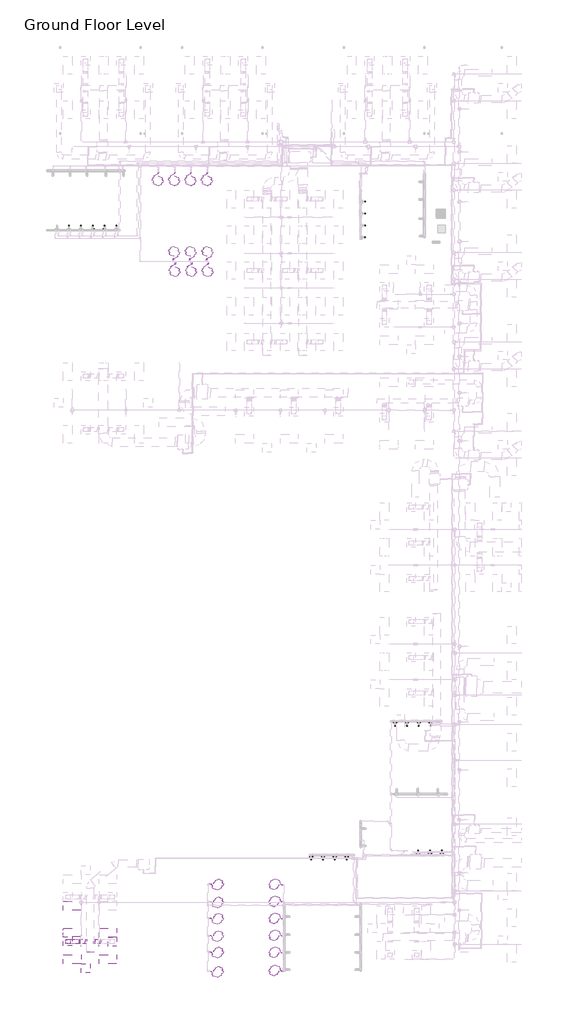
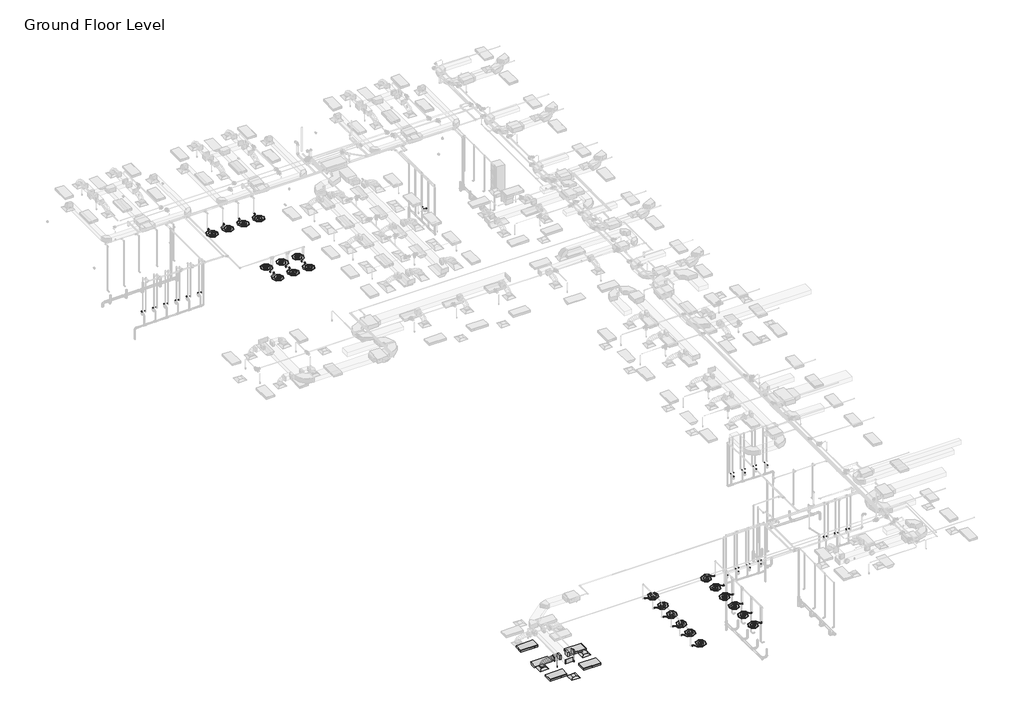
# One storey, part 1 of 74: 43 flow terminals, 6 duct fittings, 5 light fixtures, 3 air terminals, 3 duct segments, 2 fire suppression terminals, 2 pipe segments.
"""IFC4 building model written with IfcOpenShell, lengths in millimetres."""

from ifc_helpers import new_model, si_unit, point, frame, frame_2d, origin, place, context, project, spatial, polyline, circle_curve, ellipse_curve, trimmed, segment, composite_curve, outline, extrude, transform, mapped, element, save
from ifc_brep_helpers import plane_surface, cylinder_surface, advanced_brep
from components import m_return_diffuser_600_x_600_face_300_x_300_connection_ff221211, m_rectangular_endcap_standard_72d4d00d, m_rectangular_takeoff_standard_cb0ccb98, m_rectangular_takeoff_standard_2be5eba1, m_rectangular_to_round_transition_angle_45_degree_641efff0, m_sprinkler_dry_pendent_hosted_15_mm_dry_pendent_9bda8e11, lavatory_unit_m_type_1_c53317d3, shower_m_shower_m_096738a5, m_emergency_recessed_lighting_fixture_600x1200_277_5b10b25d, m_troffer_light_parabolic_rectangular1_0600x1200mm_4_lamp_86473d4a

model = new_model("IFC4")

# Units and contexts
model_context = context("Model", 3, world=origin())
ifc_project = project(units=[si_unit("LENGTHUNIT", "METRE", prefix="MILLI")], contexts=[model_context])

# Site, building, storey
site = spatial("IfcSite", under=ifc_project)
building = spatial("IfcBuilding", under=site)
storey = spatial("IfcBuildingStorey", under=building, Name="Ground Floor Level", Elevation=900.0)

# Air terminals
placement = place(None, origin())
m_return_diffuser_600_x_600_face_300_x_300_connection_shape = m_return_diffuser_600_x_600_face_300_x_300_connection_ff221211(model_context)
element("IfcAirTerminal", 1, ObjectType="M_Return Diffuser : 600 x 600 Face 300 x 300 Connection", at=placement, inside=storey, context=model_context, shape_type="MappedRepresentation", body=[
    mapped(m_return_diffuser_600_x_600_face_300_x_300_connection_shape, transform((-19137.2327605, -40464.7846466, 3650.0), x_axis=(1.0, 0.0, 0.0), y_axis=(0.0, 1.0, 0.0), z_axis=(0.0, 0.0, 1.0))),
])
element("IfcAirTerminal", 2, ObjectType="M_Supply Diffuser : 600 x 600 Face 300 x 300 Connection", at=placement, inside=storey, context=model_context, shape_type="MappedRepresentation", body=[
    mapped(m_return_diffuser_600_x_600_face_300_x_300_connection_shape, transform((-20337.2327605, -38664.7846466, 3650.0), x_axis=(1.0, 0.0, 0.0), y_axis=(0.0, 1.0, 0.0), z_axis=(0.0, 0.0, 1.0))),
])
element("IfcAirTerminal", 3, ObjectType="M_Supply Diffuser : 600 x 600 Face 300 x 300 Connection", at=placement, inside=storey, context=model_context, shape_type="MappedRepresentation", body=[
    mapped(m_return_diffuser_600_x_600_face_300_x_300_connection_shape, transform((-17337.2327605, -38674.7846466, 3650.0), x_axis=(1.0, 0.0, 0.0), y_axis=(0.0, 1.0, 0.0), z_axis=(0.0, 0.0, 1.0))),
])

# Duct fittings
m_rectangular_endcap_standard_shape = m_rectangular_endcap_standard_72d4d00d(model_context)
element("IfcDuctFitting", 4, ObjectType="M_Rectangular Endcap : Standard", at=placement, inside=storey, context=model_context, shape_type="MappedRepresentation", body=[
    mapped(m_rectangular_endcap_standard_shape, transform((-18834.0450532, -39368.1580197, 4100.0), x_axis=(0.0, -1.0, 0.0), y_axis=(1.0, 0.0, 0.0), z_axis=(0.0, 0.0, 1.0))),
])
m_rectangular_takeoff_standard_shape = m_rectangular_takeoff_standard_cb0ccb98(model_context)
element("IfcDuctFitting", 5, ObjectType="M_Rectangular Takeoff : Standard", at=placement, inside=storey, context=model_context, shape_type="MappedRepresentation", body=[
    mapped(m_rectangular_takeoff_standard_shape, transform((-18584.0450532, -38664.7846466, 4100.0), x_axis=(1.0, 0.0, 0.0), y_axis=(0.0, -1.0, 0.0), z_axis=(0.0, 0.0, -1.0))),
])
m_rectangular_takeoff_standard_2_shape = m_rectangular_takeoff_standard_2be5eba1(model_context)
element("IfcDuctFitting", 6, ObjectType="M_Rectangular Takeoff : Standard", at=placement, inside=storey, context=model_context, shape_type="MappedRepresentation", body=[
    mapped(m_rectangular_takeoff_standard_2_shape, transform((-19084.0450532, -38664.7846466, 4100.0), x_axis=(-1.0, 0.0, 0.0), y_axis=(0.0, 1.0, 0.0), z_axis=(0.0, 0.0, -1.0))),
])
m_rectangular_to_round_transition_angle_45_degree_shape = m_rectangular_to_round_transition_angle_45_degree_641efff0(model_context)
element("IfcDuctFitting", 7, ObjectType="M_Rectangular to Round Transition - Angle : 45 Degree", at=placement, inside=storey, context=model_context, shape_type="MappedRepresentation", body=[
    mapped(m_rectangular_to_round_transition_angle_45_degree_shape, transform((-18164.5686918, -38664.7846466, 4100.0), x_axis=(1.0, 0.0, 0.0), y_axis=(0.0, 1.0, 0.0), z_axis=(0.0, 0.0, 1.0))),
])
element("IfcDuctFitting", 8, ObjectType="M_Rectangular to Round Transition - Angle : 45 Degree", at=placement, inside=storey, context=model_context, shape_type="MappedRepresentation", body=[
    mapped(m_rectangular_to_round_transition_angle_45_degree_shape, transform((-20337.2327605, -38664.7846466, 3751.6), x_axis=(0.0, 0.0, 1.0), y_axis=(-1.0, 0.0, 0.0), z_axis=(0.0, -1.0, 0.0))),
])
element("IfcDuctFitting", 9, ObjectType="M_Rectangular to Round Transition - Angle : 45 Degree", at=placement, inside=storey, context=model_context, shape_type="MappedRepresentation", body=[
    mapped(m_rectangular_to_round_transition_angle_45_degree_shape, transform((-19509.8968292, -38664.7846466, 4100.0), x_axis=(-1.0, 0.0, 0.0), y_axis=(0.0, -1.0, 0.0), z_axis=(0.0, 0.0, 1.0))),
])

# Duct segments
element("IfcDuctSegment", 10, ObjectType="Flex - Round", at=placement, inside=storey, context=model_context, shape_type="AdvancedBrep", body=[
    advanced_brep(
    [(-20187.2327605, -38664.7846466, 3826.6), (-20337.2327605, -38814.7846466, 3826.6), (-20487.2327605, -38664.7846466, 3826.6), (-20337.2327605, -38514.7846466, 3826.6), (-20187.2327605, -38664.7846466, 3832.2944892), (-20337.2327605, -38814.7846466, 3857.9377114), (-20487.2327605, -38664.7846466, 3883.5809337), (-20337.2327605, -38514.7846466, 3857.9377114), (-20186.478849, -38664.7846466, 3834.435049), (-20320.216828, -38814.7846466, 3906.2505728), (-20453.9548069, -38664.7846466, 3978.0660967), (-20320.216828, -38514.7846466, 3906.2505728), (-20168.8270484, -38664.7846466, 3857.8020236), (-20273.0329476, -38814.7846466, 3968.7113131), (-20377.2388469, -38664.7846466, 4079.6206026), (-20273.0329476, -38514.7846466, 3968.7113131), (-20132.5429398, -38664.7846466, 3881.8163788), (-20201.4769955, -38814.7846466, 4016.0700639), (-20270.4110511, -38664.7846466, 4150.3237489), (-20201.4769955, -38514.7846466, 4016.0700639), (-20067.7840843, -38664.7846466, 3906.4925606), (-20111.3448475, -38814.7846466, 4050.4146682), (-20154.9056106, -38664.7846466, 4194.3367758), (-20111.3448475, -38514.7846466, 4050.4146682), (-19981.8714556, -38664.7846466, 3926.0424542), (-20008.4323796, -38814.7846466, 4073.8329691), (-20034.9933036, -38664.7846466, 4221.6234841), (-20008.4323796, -38514.7846466, 4073.8329691), (-19883.3845655, -38664.7846466, 3939.1085462), (-19898.5354679, -38814.7846466, 4088.4128097), (-19913.6863702, -38664.7846466, 4237.7170733), (-19898.5354679, -38514.7846466, 4088.4128097), (-19779.9446601, -38664.7846466, 3946.398915), (-19787.4499883, -38814.7846466, 4096.242033), (-19794.9553164, -38664.7846466, 4246.085151), (-19787.4499883, -38514.7846466, 4096.242033), (-19678.2803236, -38664.7846466, 3949.4222102), (-19680.9718167, -38814.7846466, 4099.4084821), (-19683.6633098, -38664.7846466, 4249.394754), (-19680.9718167, -38514.7846466, 4099.4084821), (-19583.9733214, -38664.7846466, 3950.0028429), (-19584.8968292, -38814.7846466, 4100.0), (-19585.8203371, -38664.7846466, 4249.9971571), (-19584.8968292, -38514.7846466, 4100.0)],
    [
        (0, 1, circle_curve(frame((-20337.2327605, -38664.7846466, 3826.6), z_axis=(0.0, 0.0, -1.0), x_axis=(1.0, 0.0, 0.0)), 150.0)),
        (1, 2, circle_curve(frame((-20337.2327605, -38664.7846466, 3826.6), z_axis=(0.0, 0.0, -1.0), x_axis=(1.0, 0.0, 0.0)), 150.0)),
        (2, 3, circle_curve(frame((-20337.2327605, -38664.7846466, 3826.6), z_axis=(0.0, 0.0, -1.0), x_axis=(1.0, 0.0, 0.0)), 150.0)),
        (3, 0, circle_curve(frame((-20337.2327605, -38664.7846466, 3826.6), z_axis=(0.0, 0.0, -1.0), x_axis=(1.0, 0.0, 0.0)), 150.0)),
        (0, 4),
        (4, 5, ellipse_curve(frame((-20337.2327605, -38664.7846466, 3857.9377114), z_axis=(-0.16851014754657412, 0.0, -0.9856999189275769), x_axis=(0.9856999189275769, 0.0, -0.16851014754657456)), 152.176131, 150.0)),
        (5, 1),
        (5, 6, ellipse_curve(frame((-20337.2327605, -38664.7846466, 3857.9377114), z_axis=(-0.16851014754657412, 0.0, -0.9856999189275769), x_axis=(0.9856999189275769, 0.0, -0.16851014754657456)), 152.176131, 150.0)),
        (6, 2),
        (6, 7, ellipse_curve(frame((-20337.2327605, -38664.7846466, 3857.9377114), z_axis=(-0.16851014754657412, 0.0, -0.9856999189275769), x_axis=(0.9856999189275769, 0.0, -0.16851014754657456)), 152.176131, 150.0)),
        (7, 3),
        (7, 4, ellipse_curve(frame((-20337.2327605, -38664.7846466, 3857.9377114), z_axis=(-0.16851014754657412, 0.0, -0.9856999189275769), x_axis=(0.9856999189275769, 0.0, -0.16851014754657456)), 152.176131, 150.0)),
        (4, 8),
        (8, 9, ellipse_curve(frame((-20320.216828, -38664.7846466, 3906.2505728), z_axis=(-0.47309225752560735, 0.0, -0.881012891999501), x_axis=(0.8810128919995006, 0.0, -0.4730922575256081)), 151.8002519, 150.0)),
        (9, 5),
        (9, 10, ellipse_curve(frame((-20320.216828, -38664.7846466, 3906.2505728), z_axis=(-0.47309225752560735, 0.0, -0.881012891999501), x_axis=(0.8810128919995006, 0.0, -0.4730922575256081)), 151.8002519, 150.0)),
        (10, 6),
        (10, 11, ellipse_curve(frame((-20320.216828, -38664.7846466, 3906.2505728), z_axis=(-0.47309225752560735, 0.0, -0.881012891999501), x_axis=(0.8810128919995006, 0.0, -0.4730922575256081)), 151.8002519, 150.0)),
        (11, 7),
        (11, 8, ellipse_curve(frame((-20320.216828, -38664.7846466, 3906.2505728), z_axis=(-0.47309225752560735, 0.0, -0.881012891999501), x_axis=(0.8810128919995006, 0.0, -0.4730922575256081)), 151.8002519, 150.0)),
        (8, 12),
        (12, 13, ellipse_curve(frame((-20273.0329476, -38664.7846466, 3968.7113131), z_axis=(-0.728787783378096, 0.0, -0.6847396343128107), x_axis=(0.6847396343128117, 0.0, -0.7287877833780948)), 152.1832446, 150.0)),
        (13, 9),
        (13, 14, ellipse_curve(frame((-20273.0329476, -38664.7846466, 3968.7113131), z_axis=(-0.728787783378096, 0.0, -0.6847396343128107), x_axis=(0.6847396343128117, 0.0, -0.7287877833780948)), 152.1832446, 150.0)),
        (14, 10),
        (14, 15, ellipse_curve(frame((-20273.0329476, -38664.7846466, 3968.7113131), z_axis=(-0.728787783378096, 0.0, -0.6847396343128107), x_axis=(0.6847396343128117, 0.0, -0.7287877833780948)), 152.1832446, 150.0)),
        (15, 11),
        (15, 12, ellipse_curve(frame((-20273.0329476, -38664.7846466, 3968.7113131), z_axis=(-0.728787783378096, 0.0, -0.6847396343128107), x_axis=(0.6847396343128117, 0.0, -0.7287877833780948)), 152.1832446, 150.0)),
        (12, 16),
        (16, 17, ellipse_curve(frame((-20201.4769955, -38664.7846466, 4016.0700639), z_axis=(-0.8895859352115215, 0.0, -0.4567678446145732), x_axis=(0.45676784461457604, 0.0, -0.88958593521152)), 150.91705, 150.0)),
        (17, 13),
        (17, 18, ellipse_curve(frame((-20201.4769955, -38664.7846466, 4016.0700639), z_axis=(-0.8895859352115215, 0.0, -0.4567678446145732), x_axis=(0.45676784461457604, 0.0, -0.88958593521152)), 150.91705, 150.0)),
        (18, 14),
        (18, 19, ellipse_curve(frame((-20201.4769955, -38664.7846466, 4016.0700639), z_axis=(-0.8895859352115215, 0.0, -0.4567678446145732), x_axis=(0.45676784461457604, 0.0, -0.88958593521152)), 150.91705, 150.0)),
        (19, 15),
        (19, 16, ellipse_curve(frame((-20201.4769955, -38664.7846466, 4016.0700639), z_axis=(-0.8895859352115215, 0.0, -0.4567678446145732), x_axis=(0.45676784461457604, 0.0, -0.88958593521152)), 150.91705, 150.0)),
        (16, 20),
        (20, 21, ellipse_curve(frame((-20111.3448475, -38664.7846466, 4050.4146682), z_axis=(-0.9571203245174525, 0.0, -0.2896906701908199), x_axis=(0.28969067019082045, 0.0, -0.9571203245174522)), 150.369921, 150.0)),
        (21, 17),
        (21, 22, ellipse_curve(frame((-20111.3448475, -38664.7846466, 4050.4146682), z_axis=(-0.9571203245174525, 0.0, -0.2896906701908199), x_axis=(0.28969067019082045, 0.0, -0.9571203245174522)), 150.369921, 150.0)),
        (22, 18),
        (22, 23, ellipse_curve(frame((-20111.3448475, -38664.7846466, 4050.4146682), z_axis=(-0.9571203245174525, 0.0, -0.2896906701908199), x_axis=(0.28969067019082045, 0.0, -0.9571203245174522)), 150.369921, 150.0)),
        (23, 19),
        (23, 20, ellipse_curve(frame((-20111.3448475, -38664.7846466, 4050.4146682), z_axis=(-0.9571203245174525, 0.0, -0.2896906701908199), x_axis=(0.28969067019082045, 0.0, -0.9571203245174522)), 150.369921, 150.0)),
        (20, 24),
        (24, 25, ellipse_curve(frame((-20008.4323796, -38664.7846466, 4073.8329691), z_axis=(-0.9842313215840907, 0.0, -0.17688613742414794), x_axis=(0.17688613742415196, 0.0, -0.9842313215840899)), 150.1583131, 150.0)),
        (25, 21),
        (25, 26, ellipse_curve(frame((-20008.4323796, -38664.7846466, 4073.8329691), z_axis=(-0.9842313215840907, 0.0, -0.17688613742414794), x_axis=(0.17688613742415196, 0.0, -0.9842313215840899)), 150.1583131, 150.0)),
        (26, 22),
        (26, 27, ellipse_curve(frame((-20008.4323796, -38664.7846466, 4073.8329691), z_axis=(-0.9842313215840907, 0.0, -0.17688613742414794), x_axis=(0.17688613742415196, 0.0, -0.9842313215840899)), 150.1583131, 150.0)),
        (27, 23),
        (27, 24, ellipse_curve(frame((-20008.4323796, -38664.7846466, 4073.8329691), z_axis=(-0.9842313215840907, 0.0, -0.17688613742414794), x_axis=(0.17688613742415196, 0.0, -0.9842313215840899)), 150.1583131, 150.0)),
        (24, 28),
        (28, 29, ellipse_curve(frame((-19898.5354679, -38664.7846466, 4088.4128097), z_axis=(-0.9948906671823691, 0.0, -0.1009582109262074), x_axis=(0.10095821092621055, 0.0, -0.9948906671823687)), 150.0710264, 150.0)),
        (29, 25),
        (29, 30, ellipse_curve(frame((-19898.5354679, -38664.7846466, 4088.4128097), z_axis=(-0.9948906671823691, 0.0, -0.1009582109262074), x_axis=(0.10095821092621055, 0.0, -0.9948906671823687)), 150.0710264, 150.0)),
        (30, 26),
        (30, 31, ellipse_curve(frame((-19898.5354679, -38664.7846466, 4088.4128097), z_axis=(-0.9948906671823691, 0.0, -0.1009582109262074), x_axis=(0.10095821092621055, 0.0, -0.9948906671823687)), 150.0710264, 150.0)),
        (31, 27),
        (31, 28, ellipse_curve(frame((-19898.5354679, -38664.7846466, 4088.4128097), z_axis=(-0.9948906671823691, 0.0, -0.1009582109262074), x_axis=(0.10095821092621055, 0.0, -0.9948906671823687)), 150.0710264, 150.0)),
        (28, 32),
        (32, 33, ellipse_curve(frame((-19787.4499883, -38664.7846466, 4096.242033), z_axis=(-0.9987479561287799, 0.0, -0.05002519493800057), x_axis=(0.05002519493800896, 0.0, -0.9987479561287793)), 150.0309634, 150.0)),
        (33, 29),
        (33, 34, ellipse_curve(frame((-19787.4499883, -38664.7846466, 4096.242033), z_axis=(-0.9987479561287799, 0.0, -0.05002519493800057), x_axis=(0.05002519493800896, 0.0, -0.9987479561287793)), 150.0309634, 150.0)),
        (34, 30),
        (34, 35, ellipse_curve(frame((-19787.4499883, -38664.7846466, 4096.242033), z_axis=(-0.9987479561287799, 0.0, -0.05002519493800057), x_axis=(0.05002519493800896, 0.0, -0.9987479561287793)), 150.0309634, 150.0)),
        (35, 31),
        (35, 32, ellipse_curve(frame((-19787.4499883, -38664.7846466, 4096.242033), z_axis=(-0.9987479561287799, 0.0, -0.05002519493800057), x_axis=(0.05002519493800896, 0.0, -0.9987479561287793)), 150.0309634, 150.0)),
        (32, 36),
        (36, 37, ellipse_curve(frame((-19680.9718167, -38664.7846466, 4099.4084821), z_axis=(-0.9998390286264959, 0.0, -0.017942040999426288), x_axis=(0.01794204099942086, 0.0, -0.999839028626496)), 150.0104193, 150.0)),
        (37, 33),
        (37, 38, ellipse_curve(frame((-19680.9718167, -38664.7846466, 4099.4084821), z_axis=(-0.9998390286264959, 0.0, -0.017942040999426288), x_axis=(0.01794204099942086, 0.0, -0.999839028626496)), 150.0104193, 150.0)),
        (38, 34),
        (38, 39, ellipse_curve(frame((-19680.9718167, -38664.7846466, 4099.4084821), z_axis=(-0.9998390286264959, 0.0, -0.017942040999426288), x_axis=(0.01794204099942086, 0.0, -0.999839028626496)), 150.0104193, 150.0)),
        (39, 35),
        (39, 36, ellipse_curve(frame((-19680.9718167, -38664.7846466, 4099.4084821), z_axis=(-0.9998390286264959, 0.0, -0.017942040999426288), x_axis=(0.01794204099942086, 0.0, -0.999839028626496)), 150.0104193, 150.0)),
        (36, 40),
        (40, 41, circle_curve(frame((-19584.8968292, -38664.7846466, 4100.0), z_axis=(-0.9999810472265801, 0.0, -0.006156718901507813), x_axis=(0.006156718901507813, 0.0, -0.9999810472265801)), 150.0)),
        (41, 37),
        (41, 42, circle_curve(frame((-19584.8968292, -38664.7846466, 4100.0), z_axis=(-0.9999810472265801, 0.0, -0.006156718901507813), x_axis=(0.006156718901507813, 0.0, -0.9999810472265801)), 150.0)),
        (42, 38),
        (42, 43, circle_curve(frame((-19584.8968292, -38664.7846466, 4100.0), z_axis=(-0.9999810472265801, 0.0, -0.006156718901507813), x_axis=(0.006156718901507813, 0.0, -0.9999810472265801)), 150.0)),
        (43, 39),
        (43, 40, circle_curve(frame((-19584.8968292, -38664.7846466, 4100.0), z_axis=(-0.9999810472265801, 0.0, -0.006156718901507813), x_axis=(0.006156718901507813, 0.0, -0.9999810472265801)), 150.0)),
    ],
    [
        plane_surface(frame((-20337.2327605, -38814.7846466, 3826.6), z_axis=(0.0, 0.0, -1.0), x_axis=(1.0, 0.0, 0.0))),
        cylinder_surface(frame((-20337.2327605, -38664.7846466, 3826.6), z_axis=(0.0, 0.0, -1.0), x_axis=(1.0, 0.0, 0.0)), 150.0),
        cylinder_surface(frame((-20337.2327605, -38664.7846466, 3857.9377114), z_axis=(-0.3322008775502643, 0.0, -0.9432086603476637), x_axis=(0.9432086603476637, 0.0, -0.3322008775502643)), 150.0),
        cylinder_surface(frame((-20320.216828, -38664.7846466, 3906.2505728), z_axis=(-0.602762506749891, 0.0, -0.7979206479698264), x_axis=(0.7979206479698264, 0.0, -0.602762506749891)), 150.0),
        cylinder_surface(frame((-20273.0329476, -38664.7846466, 3968.7113131), z_axis=(-0.8339024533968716, 0.0, -0.5519118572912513), x_axis=(0.5519118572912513, 0.0, -0.8339024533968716)), 150.0),
        cylinder_surface(frame((-20201.4769955, -38664.7846466, 4016.0700639), z_axis=(-0.9344582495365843, 0.0, -0.35607271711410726), x_axis=(0.35607271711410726, 0.0, -0.9344582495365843)), 150.0),
        cylinder_surface(frame((-20111.3448475, -38664.7846466, 4050.4146682), z_axis=(-0.9750732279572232, 0.0, -0.2218833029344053), x_axis=(0.2218833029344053, 0.0, -0.9750732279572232)), 150.0),
        cylinder_surface(frame((-20008.4323796, -38664.7846466, 4073.8329691), z_axis=(-0.9913140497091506, 0.0, -0.13151598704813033), x_axis=(0.13151598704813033, 0.0, -0.9913140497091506)), 150.0),
        cylinder_surface(frame((-19898.5354679, -38664.7846466, 4088.4128097), z_axis=(-0.9975255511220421, 0.0, -0.07030487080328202), x_axis=(0.07030487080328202, 0.0, -0.9975255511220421)), 150.0),
        cylinder_surface(frame((-19787.4499883, -38664.7846466, 4096.242033), z_axis=(-0.9995581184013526, 0.0, -0.02972487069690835), x_axis=(0.02972487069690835, 0.0, -0.9995581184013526)), 150.0),
        cylinder_surface(frame((-19680.9718167, -38664.7846466, 4099.4084821), z_axis=(-0.9999810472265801, 0.0, -0.006156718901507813), x_axis=(0.006156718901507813, 0.0, -0.9999810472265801)), 150.0),
        plane_surface(frame((-19584.8968292, -38814.7846466, 4100.0), z_axis=(0.9999810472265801, 0.0, 0.00615671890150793), x_axis=(0.00615671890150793, 0.0, -0.9999810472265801))),
    ],
    [
        (0, [[1, 2, 3, 4]]),
        (1, [[-1, 5, 6, 7]]),
        (1, [[-2, -7, 8, 9]]),
        (1, [[-3, -9, 10, 11]]),
        (1, [[-4, -11, 12, -5]]),
        (2, [[-6, 13, 14, 15]]),
        (2, [[-8, -15, 16, 17]]),
        (2, [[-10, -17, 18, 19]]),
        (2, [[-12, -19, 20, -13]]),
        (3, [[-14, 21, 22, 23]]),
        (3, [[-16, -23, 24, 25]]),
        (3, [[-18, -25, 26, 27]]),
        (3, [[-20, -27, 28, -21]]),
        (4, [[-22, 29, 30, 31]]),
        (4, [[-24, -31, 32, 33]]),
        (4, [[-26, -33, 34, 35]]),
        (4, [[-28, -35, 36, -29]]),
        (5, [[-30, 37, 38, 39]]),
        (5, [[-32, -39, 40, 41]]),
        (5, [[-34, -41, 42, 43]]),
        (5, [[-36, -43, 44, -37]]),
        (6, [[-38, 45, 46, 47]]),
        (6, [[-40, -47, 48, 49]]),
        (6, [[-42, -49, 50, 51]]),
        (6, [[-44, -51, 52, -45]]),
        (7, [[-46, 53, 54, 55]]),
        (7, [[-48, -55, 56, 57]]),
        (7, [[-50, -57, 58, 59]]),
        (7, [[-52, -59, 60, -53]]),
        (8, [[-54, 61, 62, 63]]),
        (8, [[-56, -63, 64, 65]]),
        (8, [[-58, -65, 66, 67]]),
        (8, [[-60, -67, 68, -61]]),
        (9, [[-62, 69, 70, 71]]),
        (9, [[-64, -71, 72, 73]]),
        (9, [[-66, -73, 74, 75]]),
        (9, [[-68, -75, 76, -69]]),
        (10, [[-70, 77, 78, 79]]),
        (10, [[-72, -79, 80, 81]]),
        (10, [[-74, -81, 82, 83]]),
        (10, [[-76, -83, 84, -77]]),
        (11, [[-84, -82, -80, -78]]),
    ],
),
])
element("IfcDuctSegment", 11, ObjectType="Radius Elbows / Taps", at=placement, inside=storey, context=model_context, shape_type="SweptSolid", body=[
    extrude(outline(polyline([(-19185.6450532, -38514.7846466), (-19185.6450532, -38814.7846466), (-19509.8968292, -38814.7846466), (-19509.8968292, -38514.7846466), (-19185.6450532, -38514.7846466)])), frame((0.0, 0.0, 3950.0), z_axis=(0.0, 0.0, 1.0), x_axis=(1.0, 0.0, 0.0)), (0.0, 0.0, 1.0), 300.0),
])
element("IfcDuctSegment", 12, ObjectType="Radius Elbows / Taps", at=placement, inside=storey, context=model_context, shape_type="SweptSolid", body=[
    extrude(outline(polyline([(-18482.4450532, -38814.7846466), (-18482.4450532, -38514.7846466), (-18164.5686918, -38514.7846466), (-18164.5686918, -38814.7846466), (-18482.4450532, -38814.7846466)])), frame((0.0, 0.0, 3950.0), z_axis=(0.0, 0.0, 1.0), x_axis=(1.0, 0.0, 0.0)), (0.0, 0.0, 1.0), 300.0),
])

# Fire suppression terminals
m_sprinkler_dry_pendent_hosted_15_mm_dry_pendent_shape = m_sprinkler_dry_pendent_hosted_15_mm_dry_pendent_9bda8e11(model_context)
element("IfcFireSuppressionTerminal", 13, ObjectType="M_Sprinkler - Dry - Pendent - Hosted : 15 mm Dry Pendent", at=placement, inside=storey, context=model_context, shape_type="MappedRepresentation", body=[
    mapped(m_sprinkler_dry_pendent_hosted_15_mm_dry_pendent_shape, transform((-18237.2327605, -38964.7846466, 3650.0), x_axis=(1.0, 0.0, 0.0), y_axis=(0.0, -1.0, 0.0), z_axis=(0.0, 0.0, -1.0))),
])
element("IfcFireSuppressionTerminal", 14, ObjectType="M_Sprinkler - Dry - Pendent - Hosted : 15 mm Dry Pendent", at=placement, inside=storey, context=model_context, shape_type="MappedRepresentation", body=[
    mapped(m_sprinkler_dry_pendent_hosted_15_mm_dry_pendent_shape, transform((-19437.2327605, -38964.7846466, 3650.0), x_axis=(1.0, 0.0, 0.0), y_axis=(0.0, -1.0, 0.0), z_axis=(0.0, 0.0, -1.0))),
])

# Flow terminals
lavatory_unit_m_type_1_shape = lavatory_unit_m_type_1_c53317d3(model_context)
element("IfcFlowTerminal", 15, ObjectType="Lavatory Unit-M : Type 1", at=placement, inside=storey, context=model_context, shape_type="MappedRepresentation", body=[
    mapped(lavatory_unit_m_type_1_shape, transform((-21186.2502, 9255.2153534, 920.0), x_axis=(1.0, 0.0, 0.0), y_axis=(0.0, 1.0, 0.0), z_axis=(0.0, 0.0, 1.0))),
])
element("IfcFlowTerminal", 16, ObjectType="Lavatory Unit-M : Type 1", at=placement, inside=storey, context=model_context, shape_type="MappedRepresentation", body=[
    mapped(lavatory_unit_m_type_1_shape, transform((-20386.2502, 9255.2153534, 920.0), x_axis=(1.0, 0.0, 0.0), y_axis=(0.0, 1.0, 0.0), z_axis=(0.0, 0.0, 1.0))),
])
element("IfcFlowTerminal", 17, ObjectType="Lavatory Unit-M : Type 1", at=placement, inside=storey, context=model_context, shape_type="MappedRepresentation", body=[
    mapped(lavatory_unit_m_type_1_shape, transform((-537.2327605, 8796.1979139, 920.0), x_axis=(0.0, -1.0, 0.0), y_axis=(1.0, 0.0, 0.0), z_axis=(0.0, 0.0, 1.0))),
])
element("IfcFlowTerminal", 18, ObjectType="Lavatory Unit-M : Type 1", at=placement, inside=storey, context=model_context, shape_type="MappedRepresentation", body=[
    mapped(lavatory_unit_m_type_1_shape, transform((-19586.2502, 9255.2153534, 920.0), x_axis=(1.0, 0.0, 0.0), y_axis=(0.0, 1.0, 0.0), z_axis=(0.0, 0.0, 1.0))),
])
element("IfcFlowTerminal", 19, ObjectType="Lavatory Unit-M : Type 1", at=placement, inside=storey, context=model_context, shape_type="MappedRepresentation", body=[
    mapped(lavatory_unit_m_type_1_shape, transform((-18786.2502, 9255.2153534, 920.0), x_axis=(1.0, 0.0, 0.0), y_axis=(0.0, 1.0, 0.0), z_axis=(0.0, 0.0, 1.0))),
])
element("IfcFlowTerminal", 20, ObjectType="Lavatory Unit-M : Type 1", at=placement, inside=storey, context=model_context, shape_type="MappedRepresentation", body=[
    mapped(lavatory_unit_m_type_1_shape, transform((-17986.2502, 9255.2153534, 920.0), x_axis=(1.0, 0.0, 0.0), y_axis=(0.0, 1.0, 0.0), z_axis=(0.0, 0.0, 1.0))),
])
element("IfcFlowTerminal", 21, ObjectType="Lavatory Unit-M : Type 1", at=placement, inside=storey, context=model_context, shape_type="MappedRepresentation", body=[
    mapped(lavatory_unit_m_type_1_shape, transform((-17186.2502, 9255.2153534, 920.0), x_axis=(1.0, 0.0, 0.0), y_axis=(0.0, 1.0, 0.0), z_axis=(0.0, 0.0, 1.0))),
])
element("IfcFlowTerminal", 22, ObjectType="Lavatory Unit-M : Type 1", at=placement, inside=storey, context=model_context, shape_type="MappedRepresentation", body=[
    mapped(lavatory_unit_m_type_1_shape, transform((-537.2327605, 9596.1979139, 920.0), x_axis=(0.0, -1.0, 0.0), y_axis=(1.0, 0.0, 0.0), z_axis=(0.0, 0.0, 1.0))),
])
element("IfcFlowTerminal", 23, ObjectType="Lavatory Unit-M : Type 1", at=placement, inside=storey, context=model_context, shape_type="MappedRepresentation", body=[
    mapped(lavatory_unit_m_type_1_shape, transform((-537.2327605, 10396.1979139, 920.0), x_axis=(0.0, -1.0, 0.0), y_axis=(1.0, 0.0, 0.0), z_axis=(0.0, 0.0, 1.0))),
])
element("IfcFlowTerminal", 24, ObjectType="Lavatory Unit-M : Type 1", at=placement, inside=storey, context=model_context, shape_type="MappedRepresentation", body=[
    mapped(lavatory_unit_m_type_1_shape, transform((-537.2327605, 11196.1979139, 920.0), x_axis=(0.0, -1.0, 0.0), y_axis=(1.0, 0.0, 0.0), z_axis=(0.0, 0.0, 1.0))),
])
element("IfcFlowTerminal", 25, ObjectType="Lavatory Unit-M : Type 1", at=placement, inside=storey, context=model_context, shape_type="MappedRepresentation", body=[
    mapped(lavatory_unit_m_type_1_shape, transform((1803.7498, -23964.7846466, 920.0), x_axis=(-1.0, 0.0, 0.0), y_axis=(0.0, -1.0, 0.0), z_axis=(0.0, 0.0, 1.0))),
])
element("IfcFlowTerminal", 26, ObjectType="Lavatory Unit-M : Type 1", at=placement, inside=storey, context=model_context, shape_type="MappedRepresentation", body=[
    mapped(lavatory_unit_m_type_1_shape, transform((2603.7498, -23964.7846466, 920.0), x_axis=(-1.0, 0.0, 0.0), y_axis=(0.0, -1.0, 0.0), z_axis=(0.0, 0.0, 1.0))),
])
element("IfcFlowTerminal", 27, ObjectType="Lavatory Unit-M : Type 1", at=placement, inside=storey, context=model_context, shape_type="MappedRepresentation", body=[
    mapped(lavatory_unit_m_type_1_shape, transform((3403.7498, -23964.7846466, 920.0), x_axis=(-1.0, 0.0, 0.0), y_axis=(0.0, -1.0, 0.0), z_axis=(0.0, 0.0, 1.0))),
])
element("IfcFlowTerminal", 28, ObjectType="Lavatory Unit-M : Type 1", at=placement, inside=storey, context=model_context, shape_type="MappedRepresentation", body=[
    mapped(lavatory_unit_m_type_1_shape, transform((4203.7498, -23964.7846466, 920.0), x_axis=(-1.0, 0.0, 0.0), y_axis=(0.0, -1.0, 0.0), z_axis=(0.0, 0.0, 1.0))),
])
element("IfcFlowTerminal", 29, ObjectType="Lavatory Unit-M : Type 1", at=placement, inside=storey, context=model_context, shape_type="MappedRepresentation", body=[
    mapped(lavatory_unit_m_type_1_shape, transform((4701.7846789, -32744.7846466, 920.0), x_axis=(1.0, 0.0, 0.0), y_axis=(0.0, 1.0, 0.0), z_axis=(0.0, 0.0, 1.0))),
])
element("IfcFlowTerminal", 30, ObjectType="Lavatory Unit-M : Type 1", at=placement, inside=storey, context=model_context, shape_type="MappedRepresentation", body=[
    mapped(lavatory_unit_m_type_1_shape, transform((3901.7846789, -32744.7846466, 920.0), x_axis=(1.0, 0.0, 0.0), y_axis=(0.0, 1.0, 0.0), z_axis=(0.0, 0.0, 1.0))),
])
element("IfcFlowTerminal", 31, ObjectType="Lavatory Unit-M : Type 1", at=placement, inside=storey, context=model_context, shape_type="MappedRepresentation", body=[
    mapped(lavatory_unit_m_type_1_shape, transform((3101.7846789, -32744.7846466, 920.0), x_axis=(1.0, 0.0, 0.0), y_axis=(0.0, 1.0, 0.0), z_axis=(0.0, 0.0, 1.0))),
])
element("IfcFlowTerminal", 32, ObjectType="Lavatory Unit-M : Type 1", at=placement, inside=storey, context=model_context, shape_type="MappedRepresentation", body=[
    mapped(lavatory_unit_m_type_1_shape, transform((-1448.215321, -32964.7846466, 920.0), x_axis=(-1.0, 0.0, 0.0), y_axis=(0.0, -1.0, 0.0), z_axis=(0.0, 0.0, 1.0))),
])
element("IfcFlowTerminal", 33, ObjectType="Lavatory Unit-M : Type 1", at=placement, inside=storey, context=model_context, shape_type="MappedRepresentation", body=[
    mapped(lavatory_unit_m_type_1_shape, transform((-2248.215321, -32964.7846466, 920.0), x_axis=(-1.0, 0.0, 0.0), y_axis=(0.0, -1.0, 0.0), z_axis=(0.0, 0.0, 1.0))),
])
element("IfcFlowTerminal", 34, ObjectType="Lavatory Unit-M : Type 1", at=placement, inside=storey, context=model_context, shape_type="MappedRepresentation", body=[
    mapped(lavatory_unit_m_type_1_shape, transform((-3048.215321, -32964.7846466, 920.0), x_axis=(-1.0, 0.0, 0.0), y_axis=(0.0, -1.0, 0.0), z_axis=(0.0, 0.0, 1.0))),
])
element("IfcFlowTerminal", 35, ObjectType="Lavatory Unit-M : Type 1", at=placement, inside=storey, context=model_context, shape_type="MappedRepresentation", body=[
    mapped(lavatory_unit_m_type_1_shape, transform((-3848.215321, -32964.7846466, 920.0), x_axis=(-1.0, 0.0, 0.0), y_axis=(0.0, -1.0, 0.0), z_axis=(0.0, 0.0, 1.0))),
])
shower_m_shower_m_shape = shower_m_shower_m_096738a5(model_context)
element("IfcFlowTerminal", 36, ObjectType="Shower-M : Shower-M", at=placement, inside=storey, context=model_context, shape_type="MappedRepresentation", body=[
    mapped(shower_m_shower_m_shape, transform((-10283.9007605, -34799.6019973, 3200.0), x_axis=(-1.0, 0.0, 0.0), y_axis=(0.0, -1.0, 0.0), z_axis=(0.0, 0.0, 1.0))),
])
element("IfcFlowTerminal", 37, ObjectType="Shower-M : Shower-M", at=placement, inside=storey, context=model_context, shape_type="MappedRepresentation", body=[
    mapped(shower_m_shower_m_shape, transform((-10283.9007605, -35999.6019973, 3200.0), x_axis=(-1.0, 0.0, 0.0), y_axis=(0.0, -1.0, 0.0), z_axis=(0.0, 0.0, 1.0))),
])
element("IfcFlowTerminal", 38, ObjectType="Shower-M : Shower-M", at=placement, inside=storey, context=model_context, shape_type="MappedRepresentation", body=[
    mapped(shower_m_shower_m_shape, transform((-10283.9007605, -37099.6019973, 3200.0), x_axis=(-1.0, 0.0, 0.0), y_axis=(0.0, -1.0, 0.0), z_axis=(0.0, 0.0, 1.0))),
])
element("IfcFlowTerminal", 39, ObjectType="Shower-M : Shower-M", at=placement, inside=storey, context=model_context, shape_type="MappedRepresentation", body=[
    mapped(shower_m_shower_m_shape, transform((-10283.9007605, -38269.7846466, 3200.0), x_axis=(-1.0, 0.0, 0.0), y_axis=(0.0, -1.0, 0.0), z_axis=(0.0, 0.0, 1.0))),
])
element("IfcFlowTerminal", 40, ObjectType="Shower-M : Shower-M", at=placement, inside=storey, context=model_context, shape_type="MappedRepresentation", body=[
    mapped(shower_m_shower_m_shape, transform((-10283.9007605, -39369.7846466, 3200.0), x_axis=(-1.0, 0.0, 0.0), y_axis=(0.0, -1.0, 0.0), z_axis=(0.0, 0.0, 1.0))),
])
element("IfcFlowTerminal", 41, ObjectType="Shower-M : Shower-M", at=placement, inside=storey, context=model_context, shape_type="MappedRepresentation", body=[
    mapped(shower_m_shower_m_shape, transform((-10283.9007605, -40669.7846466, 3200.0), x_axis=(-1.0, 0.0, 0.0), y_axis=(0.0, -1.0, 0.0), z_axis=(0.0, 0.0, 1.0))),
])
element("IfcFlowTerminal", 42, ObjectType="Shower-M : Shower-M", at=placement, inside=storey, context=model_context, shape_type="MappedRepresentation", body=[
    mapped(shower_m_shower_m_shape, transform((-6390.5687605, -34864.6926466, 3200.0), x_axis=(1.0, 0.0, 0.0), y_axis=(0.0, 1.0, 0.0), z_axis=(0.0, 0.0, 1.0))),
])
element("IfcFlowTerminal", 43, ObjectType="Shower-M : Shower-M", at=placement, inside=storey, context=model_context, shape_type="MappedRepresentation", body=[
    mapped(shower_m_shower_m_shape, transform((-6390.5687605, -36012.7835466, 3200.0), x_axis=(1.0, 0.0, 0.0), y_axis=(0.0, 1.0, 0.0), z_axis=(0.0, 0.0, 1.0))),
])
element("IfcFlowTerminal", 44, ObjectType="Shower-M : Shower-M", at=placement, inside=storey, context=model_context, shape_type="MappedRepresentation", body=[
    mapped(shower_m_shower_m_shape, transform((-6390.5687605, -37152.7833366, 3200.0), x_axis=(1.0, 0.0, 0.0), y_axis=(0.0, 1.0, 0.0), z_axis=(0.0, 0.0, 1.0))),
])
element("IfcFlowTerminal", 45, ObjectType="Shower-M : Shower-M", at=placement, inside=storey, context=model_context, shape_type="MappedRepresentation", body=[
    mapped(shower_m_shower_m_shape, transform((-6390.5687605, -38292.7833266, 3200.0), x_axis=(1.0, 0.0, 0.0), y_axis=(0.0, 1.0, 0.0), z_axis=(0.0, 0.0, 1.0))),
])
element("IfcFlowTerminal", 46, ObjectType="Shower-M : Shower-M", at=placement, inside=storey, context=model_context, shape_type="MappedRepresentation", body=[
    mapped(shower_m_shower_m_shape, transform((-6390.5687605, -39432.7929166, 3200.0), x_axis=(1.0, 0.0, 0.0), y_axis=(0.0, 1.0, 0.0), z_axis=(0.0, 0.0, 1.0))),
])
element("IfcFlowTerminal", 47, ObjectType="Shower-M : Shower-M", at=placement, inside=storey, context=model_context, shape_type="MappedRepresentation", body=[
    mapped(shower_m_shower_m_shape, transform((-6390.5687605, -40654.7846466, 3200.0), x_axis=(1.0, 0.0, 0.0), y_axis=(0.0, 1.0, 0.0), z_axis=(0.0, 0.0, 1.0))),
])
element("IfcFlowTerminal", 48, ObjectType="Shower-M : Shower-M", at=placement, inside=storey, context=model_context, shape_type="MappedRepresentation", body=[
    mapped(shower_m_shower_m_shape, transform((-14247.2327605, 12535.2153534, 3200.0), x_axis=(0.0, 1.0, 0.0), y_axis=(-1.0, 0.0, 0.0), z_axis=(0.0, 0.0, 1.0))),
])
element("IfcFlowTerminal", 49, ObjectType="Shower-M : Shower-M", at=placement, inside=storey, context=model_context, shape_type="MappedRepresentation", body=[
    mapped(shower_m_shower_m_shape, transform((-13147.2327605, 12535.2153534, 3200.0), x_axis=(0.0, 1.0, 0.0), y_axis=(-1.0, 0.0, 0.0), z_axis=(0.0, 0.0, 1.0))),
])
element("IfcFlowTerminal", 50, ObjectType="Shower-M : Shower-M", at=placement, inside=storey, context=model_context, shape_type="MappedRepresentation", body=[
    mapped(shower_m_shower_m_shape, transform((-12047.2327605, 12535.2153534, 3200.0), x_axis=(0.0, 1.0, 0.0), y_axis=(-1.0, 0.0, 0.0), z_axis=(0.0, 0.0, 1.0))),
])
element("IfcFlowTerminal", 51, ObjectType="Shower-M : Shower-M", at=placement, inside=storey, context=model_context, shape_type="MappedRepresentation", body=[
    mapped(shower_m_shower_m_shape, transform((-10947.2327605, 12535.2153534, 3200.0), x_axis=(0.0, 1.0, 0.0), y_axis=(-1.0, 0.0, 0.0), z_axis=(0.0, 0.0, 1.0))),
])
element("IfcFlowTerminal", 52, ObjectType="Shower-M : Shower-M", at=placement, inside=storey, context=model_context, shape_type="MappedRepresentation", body=[
    mapped(shower_m_shower_m_shape, transform((-13232.2327605, 7645.2153534, 3200.0), x_axis=(0.0, -1.0, 0.0), y_axis=(1.0, 0.0, 0.0), z_axis=(0.0, 0.0, 1.0))),
])
element("IfcFlowTerminal", 53, ObjectType="Shower-M : Shower-M", at=placement, inside=storey, context=model_context, shape_type="MappedRepresentation", body=[
    mapped(shower_m_shower_m_shape, transform((-12122.2327605, 7645.2153534, 3200.0), x_axis=(0.0, -1.0, 0.0), y_axis=(1.0, 0.0, 0.0), z_axis=(0.0, 0.0, 1.0))),
])
element("IfcFlowTerminal", 54, ObjectType="Shower-M : Shower-M", at=placement, inside=storey, context=model_context, shape_type="MappedRepresentation", body=[
    mapped(shower_m_shower_m_shape, transform((-10987.2327605, 7645.2153534, 3200.0), x_axis=(0.0, -1.0, 0.0), y_axis=(1.0, 0.0, 0.0), z_axis=(0.0, 0.0, 1.0))),
])
element("IfcFlowTerminal", 55, ObjectType="Shower-M : Shower-M", at=placement, inside=storey, context=model_context, shape_type="MappedRepresentation", body=[
    mapped(shower_m_shower_m_shape, transform((-10897.2327605, 6425.2153534, 3200.0), x_axis=(0.0, 1.0, 0.0), y_axis=(-1.0, 0.0, 0.0), z_axis=(0.0, 0.0, 1.0))),
])
element("IfcFlowTerminal", 56, ObjectType="Shower-M : Shower-M", at=placement, inside=storey, context=model_context, shape_type="MappedRepresentation", body=[
    mapped(shower_m_shower_m_shape, transform((-11997.2327605, 6435.2153534, 3200.0), x_axis=(0.0, 1.0, 0.0), y_axis=(-1.0, 0.0, 0.0), z_axis=(0.0, 0.0, 1.0))),
])
element("IfcFlowTerminal", 57, ObjectType="Shower-M : Shower-M", at=placement, inside=storey, context=model_context, shape_type="MappedRepresentation", body=[
    mapped(shower_m_shower_m_shape, transform((-13107.2327605, 6435.2153534, 3200.0), x_axis=(0.0, 1.0, 0.0), y_axis=(-1.0, 0.0, 0.0), z_axis=(0.0, 0.0, 1.0))),
])

# Light fixtures
m_emergency_recessed_lighting_fixture_600x1200_277_shape = m_emergency_recessed_lighting_fixture_600x1200_277_5b10b25d(model_context)
element("IfcLightFixture", 58, ObjectType="M_Emergency Recessed Lighting Fixture : 600x1200 - 277", at=placement, inside=storey, context=model_context, shape_type="MappedRepresentation", body=[
    mapped(m_emergency_recessed_lighting_fixture_600x1200_277_shape, transform((-20637.2327605, -37764.7846466, 3650.0), x_axis=(1.0, 0.0, 0.0), y_axis=(0.0, 1.0, 0.0), z_axis=(0.0, 0.0, 1.0))),
])
m_troffer_light_parabolic_rectangular1_0600x1200mm_4_lamp_shape = m_troffer_light_parabolic_rectangular1_0600x1200mm_4_lamp_86473d4a(model_context)
element("IfcLightFixture", 59, ObjectType="M_Troffer Light - Parabolic Rectangular1 : 0600x1200mm(4 Lamp) - 277V 2", at=placement, inside=storey, context=model_context, shape_type="MappedRepresentation", body=[
    mapped(m_troffer_light_parabolic_rectangular1_0600x1200mm_4_lamp_shape, transform((-20018.5292589, -39811.6319125, 3650.0), x_axis=(1.0, 0.0, 0.0), y_axis=(0.0, 1.0, 0.0), z_axis=(0.0, 0.0, 1.0))),
])
element("IfcLightFixture", 60, ObjectType="M_Troffer Light - Parabolic Rectangular1 : 0600x1200mm(4 Lamp) - 277V 2", at=placement, inside=storey, context=model_context, shape_type="MappedRepresentation", body=[
    mapped(m_troffer_light_parabolic_rectangular1_0600x1200mm_4_lamp_shape, transform((-17618.5292589, -39811.6319125, 3650.0), x_axis=(1.0, 0.0, 0.0), y_axis=(0.0, 1.0, 0.0), z_axis=(0.0, 0.0, 1.0))),
])
element("IfcLightFixture", 61, ObjectType="M_Troffer Light - Parabolic Rectangular1 : 0600x1200mm(4 Lamp) - 277V 2", at=placement, inside=storey, context=model_context, shape_type="MappedRepresentation", body=[
    mapped(m_troffer_light_parabolic_rectangular1_0600x1200mm_4_lamp_shape, transform((-17618.5292589, -38011.6319125, 3650.0), x_axis=(1.0, 0.0, 0.0), y_axis=(0.0, 1.0, 0.0), z_axis=(0.0, 0.0, 1.0))),
])
element("IfcLightFixture", 62, ObjectType="M_Troffer Light - Parabolic Rectangular1 : 0600x1200mm(4 Lamp) - 277V 2", at=placement, inside=storey, context=model_context, shape_type="MappedRepresentation", body=[
    mapped(m_troffer_light_parabolic_rectangular1_0600x1200mm_4_lamp_shape, transform((-20018.5292589, -36211.6319125, 3650.0), x_axis=(1.0, 0.0, 0.0), y_axis=(0.0, 1.0, 0.0), z_axis=(0.0, 0.0, 1.0))),
])

# Pipe segments
element("IfcPipeSegment", 63, ObjectType="Steel flanged", at=placement, inside=storey, context=model_context, shape_type="SweptSolid", body=[
    extrude(outline(composite_curve([segment(trimmed(circle_curve(frame_2d((-19437.2327605, -38964.7846466)), 10.668), [point((-19447.9007605, -38964.7846466))], [point((-19437.2327605, -38954.1166466))], False, "CARTESIAN"), True, "CONTINUOUS"), segment(trimmed(circle_curve(frame_2d((-19437.2327605, -38964.7846466)), 10.668), [point((-19437.2327605, -38954.1166466))], [point((-19426.5647605, -38964.7846466))], False, "CARTESIAN"), True, "CONTINUOUS"), segment(trimmed(circle_curve(frame_2d((-19437.2327605, -38964.7846466)), 10.668), [point((-19426.5647605, -38964.7846466))], [point((-19437.2327605, -38975.4526466))], False, "CARTESIAN"), True, "CONTINUOUS"), segment(trimmed(circle_curve(frame_2d((-19437.2327605, -38964.7846466)), 10.668), [point((-19437.2327605, -38975.4526466))], [point((-19447.9007605, -38964.7846466))], False, "CARTESIAN"), True, "CONTINUOUS")], self_intersect=False)), frame((0.0, 0.0, 3650.0), z_axis=(0.0, 0.0, 1.0), x_axis=(1.0, 0.0, 0.0)), (0.0, 0.0, 1.0), 604.4914063),
])
element("IfcPipeSegment", 64, ObjectType="Steel flanged", at=placement, inside=storey, context=model_context, shape_type="SweptSolid", body=[
    extrude(outline(composite_curve([segment(trimmed(circle_curve(frame_2d((-18237.2327605, -38964.7846466)), 10.668), [point((-18247.9007605, -38964.7846466))], [point((-18237.2327605, -38954.1166466))], False, "CARTESIAN"), True, "CONTINUOUS"), segment(trimmed(circle_curve(frame_2d((-18237.2327605, -38964.7846466)), 10.668), [point((-18237.2327605, -38954.1166466))], [point((-18226.5647605, -38964.7846466))], False, "CARTESIAN"), True, "CONTINUOUS"), segment(trimmed(circle_curve(frame_2d((-18237.2327605, -38964.7846466)), 10.668), [point((-18226.5647605, -38964.7846466))], [point((-18237.2327605, -38975.4526466))], False, "CARTESIAN"), True, "CONTINUOUS"), segment(trimmed(circle_curve(frame_2d((-18237.2327605, -38964.7846466)), 10.668), [point((-18237.2327605, -38975.4526466))], [point((-18247.9007605, -38964.7846466))], False, "CARTESIAN"), True, "CONTINUOUS")], self_intersect=False)), frame((0.0, 0.0, 3650.0), z_axis=(0.0, 0.0, 1.0), x_axis=(1.0, 0.0, 0.0)), (0.0, 0.0, 1.0), 604.4914063),
])

save(model, "model.ifc")
